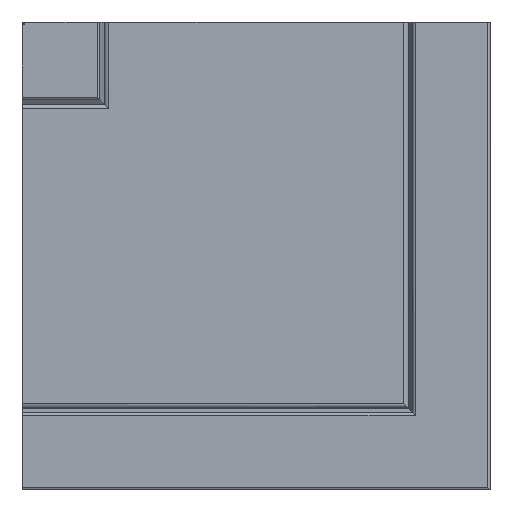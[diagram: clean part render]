
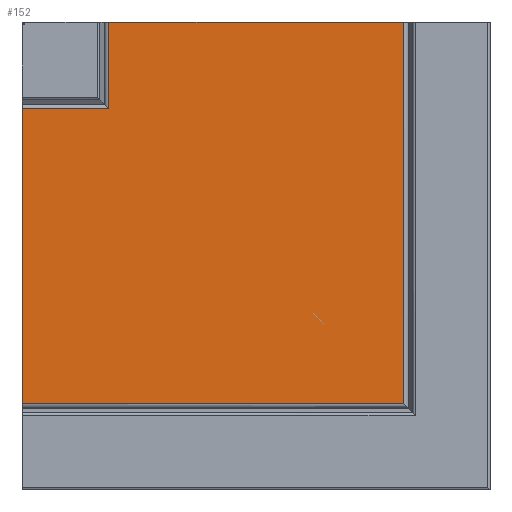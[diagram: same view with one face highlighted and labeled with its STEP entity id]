
A CAD part, front view. The second image highlights one B-rep face of the part: STEP entity #152.
In plain terms, the highlighted planar face has unit normal (0, -1, 0).
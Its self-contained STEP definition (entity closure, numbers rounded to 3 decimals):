
#76=PLANE('',#1916);
#152=ADVANCED_FACE('',(#274),#76,.T.);
#274=FACE_OUTER_BOUND('',#372,.T.);
#372=EDGE_LOOP('',(#956,#957,#958,#959,#960,#961));
#479=LINE('',#2447,#705);
#489=LINE('',#2478,#715);
#493=LINE('',#2488,#719);
#494=LINE('',#2495,#720);
#495=LINE('',#2497,#721);
#496=LINE('',#2499,#722);
#705=VECTOR('',#2014,1.);
#715=VECTOR('',#2030,1.);
#719=VECTOR('',#2040,1.);
#720=VECTOR('',#2041,1.);
#721=VECTOR('',#2042,1.);
#722=VECTOR('',#2043,1.);
#956=ORIENTED_EDGE('',*,*,#1644,.F.);
#957=ORIENTED_EDGE('',*,*,#1638,.T.);
#958=ORIENTED_EDGE('',*,*,#1625,.F.);
#959=ORIENTED_EDGE('',*,*,#1643,.F.);
#960=ORIENTED_EDGE('',*,*,#1645,.F.);
#961=ORIENTED_EDGE('',*,*,#1646,.F.);
#1454=VERTEX_POINT('',#2439);
#1457=VERTEX_POINT('',#2446);
#1459=VERTEX_POINT('',#2456);
#1472=VERTEX_POINT('',#2487);
#1473=VERTEX_POINT('',#2496);
#1474=VERTEX_POINT('',#2498);
#1625=EDGE_CURVE('',#1457,#1454,#479,.T.);
#1638=EDGE_CURVE('',#1459,#1454,#489,.T.);
#1643=EDGE_CURVE('',#1472,#1457,#493,.T.);
#1644=EDGE_CURVE('',#1459,#1473,#494,.T.);
#1645=EDGE_CURVE('',#1474,#1472,#495,.T.);
#1646=EDGE_CURVE('',#1473,#1474,#496,.T.);
#1916=AXIS2_PLACEMENT_3D('',#2500,#2044,#2045);
#2014=DIRECTION('',(0.,0.,1.));
#2030=DIRECTION('',(-1.,0.,0.));
#2040=DIRECTION('',(1.,0.,0.));
#2041=DIRECTION('',(0.,0.,-1.));
#2042=DIRECTION('',(0.,0.,1.));
#2043=DIRECTION('',(-1.,0.,0.));
#2044=DIRECTION('',(0.,-1.,0.));
#2045=DIRECTION('',(-0.707,0.,0.707));
#2439=CARTESIAN_POINT('',(-19.043,0.2,0.));
#2446=CARTESIAN_POINT('',(-19.043,0.2,-11.203));
#2447=CARTESIAN_POINT('',(-19.043,0.2,-5.602));
#2456=CARTESIAN_POINT('',(19.043,0.2,0.));
#2478=CARTESIAN_POINT('',(0.,0.2,0.));
#2487=CARTESIAN_POINT('',(-30.246,0.2,-11.203));
#2488=CARTESIAN_POINT('',(-24.645,0.2,-11.203));
#2495=CARTESIAN_POINT('',(19.043,0.2,-24.645));
#2496=CARTESIAN_POINT('',(19.043,0.2,-49.289));
#2497=CARTESIAN_POINT('',(-30.246,0.2,-30.246));
#2498=CARTESIAN_POINT('',(-30.246,0.2,-49.289));
#2499=CARTESIAN_POINT('',(-5.602,0.2,-49.289));
#2500=CARTESIAN_POINT('',(0.,0.2,-30.246));
